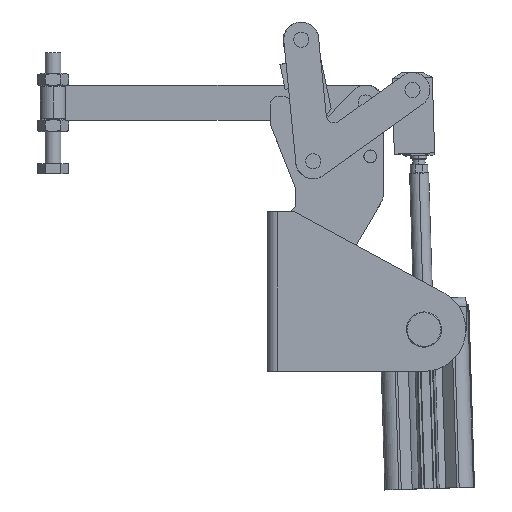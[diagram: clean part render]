
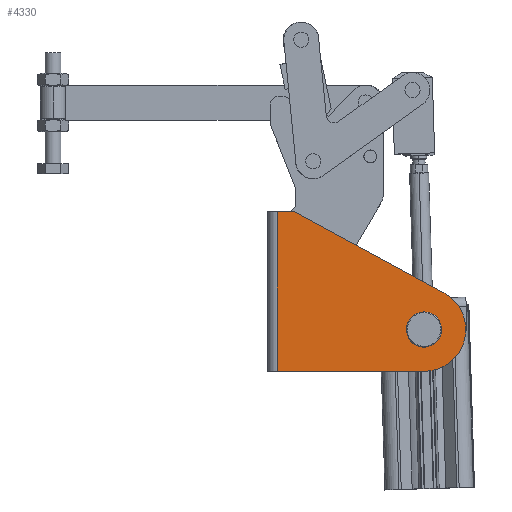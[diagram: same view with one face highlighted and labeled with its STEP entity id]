
A CAD part, top view. The second image highlights one B-rep face of the part: STEP entity #4330.
In plain terms, the highlighted planar face has unit normal (0, 0, 1) as drawn and (1, 0, 0) by its records, which use the part's own axes.
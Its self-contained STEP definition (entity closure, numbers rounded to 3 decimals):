
#91 = DIRECTION ( 'NONE',  ( -1., 0., 0. ) ) ;
#343 = VECTOR ( 'NONE', #8391, 1000. ) ;
#434 = ORIENTED_EDGE ( 'NONE', *, *, #8528, .T. ) ;
#707 = ORIENTED_EDGE ( 'NONE', *, *, #12162, .F. ) ;
#939 = AXIS2_PLACEMENT_3D ( 'NONE', #15763, #5947, #17406 ) ;
#1169 = ORIENTED_EDGE ( 'NONE', *, *, #17638, .F. ) ;
#1852 = CIRCLE ( 'NONE', #939, 3. ) ;
#3127 = ORIENTED_EDGE ( 'NONE', *, *, #12182, .F. ) ;
#3333 = EDGE_LOOP ( 'NONE', ( #17688, #3127, #1169, #707, #17320, #9495 ) ) ;
#3831 = VERTEX_POINT ( 'NONE', #19602 ) ;
#4037 = CARTESIAN_POINT ( 'NONE',  ( 44.75, 93.591, -100.6 ) ) ;
#4058 = CARTESIAN_POINT ( 'NONE',  ( 44.75, 12.533, -0.362 ) ) ;
#4243 = CARTESIAN_POINT ( 'NONE',  ( 44.75, 93.591, -64.753 ) ) ;
#4311 = DIRECTION ( 'NONE',  ( 0., 0.879, -0.476 ) ) ;
#4326 = VERTEX_POINT ( 'NONE', #13050 ) ;
#4330 = ADVANCED_FACE ( 'NONE', ( #9609, #8058 ), #14626, .F. ) ;
#4594 = EDGE_LOOP ( 'NONE', ( #434, #5643 ) ) ;
#4750 = LINE ( 'NONE', #19867, #343 ) ;
#5325 = CARTESIAN_POINT ( 'NONE',  ( 44.75, 93.591, -74.253 ) ) ;
#5342 = VERTEX_POINT ( 'NONE', #4037 ) ;
#5643 = ORIENTED_EDGE ( 'NONE', *, *, #14885, .T. ) ;
#5947 = DIRECTION ( 'NONE',  ( -1., 0., 0. ) ) ;
#5955 = DIRECTION ( 'NONE',  ( 0., -1., 0. ) ) ;
#6981 = DIRECTION ( 'NONE',  ( 0., 0., 1. ) ) ;
#7226 = AXIS2_PLACEMENT_3D ( 'NONE', #9964, #91, #11605 ) ;
#7347 = VECTOR ( 'NONE', #4311, 1000. ) ;
#7872 = LINE ( 'NONE', #14138, #7347 ) ;
#8058 = FACE_BOUND ( 'NONE', #4594, .T. ) ;
#8157 = CARTESIAN_POINT ( 'NONE',  ( 44.75, -180.194, -74.253 ) ) ;
#8171 = VERTEX_POINT ( 'NONE', #10774 ) ;
#8203 = VERTEX_POINT ( 'NONE', #4243 ) ;
#8391 = DIRECTION ( 'NONE',  ( 0., 1., 0. ) ) ;
#8528 = EDGE_CURVE ( 'NONE', #8203, #3831, #14817, .T. ) ;
#8622 = DIRECTION ( 'NONE',  ( -1., 0., 0. ) ) ;
#9276 = VERTEX_POINT ( 'NONE', #16660 ) ;
#9495 = ORIENTED_EDGE ( 'NONE', *, *, #14148, .F. ) ;
#9609 = FACE_OUTER_BOUND ( 'NONE', #3333, .T. ) ;
#9805 = DIRECTION ( 'NONE',  ( 0., 0., 1. ) ) ;
#9964 = CARTESIAN_POINT ( 'NONE',  ( 44.75, 93.591, -74.253 ) ) ;
#10578 = DIRECTION ( 'NONE',  ( 0., 0., 1. ) ) ;
#10774 = CARTESIAN_POINT ( 'NONE',  ( 44.75, 1., -100.6 ) ) ;
#11141 = VECTOR ( 'NONE', #10578, 1000. ) ;
#11605 = DIRECTION ( 'NONE',  ( 0., 0., 1. ) ) ;
#11722 = VECTOR ( 'NONE', #5955, 1000. ) ;
#12071 = VERTEX_POINT ( 'NONE', #20454 ) ;
#12162 = EDGE_CURVE ( 'NONE', #18972, #4326, #7872, .T. ) ;
#12182 = EDGE_CURVE ( 'NONE', #5342, #8171, #16079, .T. ) ;
#12218 = CARTESIAN_POINT ( 'NONE',  ( 44.75, 1., -74.253 ) ) ;
#12524 = AXIS2_PLACEMENT_3D ( 'NONE', #18439, #8622, #20108 ) ;
#12682 = AXIS2_PLACEMENT_3D ( 'NONE', #8157, #19637, #9805 ) ;
#13050 = CARTESIAN_POINT ( 'NONE',  ( 44.75, 106.144, -51.087 ) ) ;
#14138 = CARTESIAN_POINT ( 'NONE',  ( 44.75, 12.533, -0.362 ) ) ;
#14148 = EDGE_CURVE ( 'NONE', #9276, #12071, #4750, .T. ) ;
#14626 = PLANE ( 'NONE',  #12682 ) ;
#14817 = CIRCLE ( 'NONE', #7226, 9.5 ) ;
#14885 = EDGE_CURVE ( 'NONE', #3831, #8203, #18574, .T. ) ;
#15076 = EDGE_CURVE ( 'NONE', #8171, #9276, #20382, .T. ) ;
#15763 = CARTESIAN_POINT ( 'NONE',  ( 44.75, 11.104, -3. ) ) ;
#16079 = LINE ( 'NONE', #17414, #11722 ) ;
#16192 = AXIS2_PLACEMENT_3D ( 'NONE', #5325, #16799, #6981 ) ;
#16660 = CARTESIAN_POINT ( 'NONE',  ( 44.75, 1., 0. ) ) ;
#16799 = DIRECTION ( 'NONE',  ( -1., 0., 0. ) ) ;
#17320 = ORIENTED_EDGE ( 'NONE', *, *, #19684, .F. ) ;
#17406 = DIRECTION ( 'NONE',  ( 0., 0., 1. ) ) ;
#17414 = CARTESIAN_POINT ( 'NONE',  ( 44.75, 93.591, -100.6 ) ) ;
#17638 = EDGE_CURVE ( 'NONE', #4326, #5342, #20798, .T. ) ;
#17688 = ORIENTED_EDGE ( 'NONE', *, *, #15076, .F. ) ;
#18439 = CARTESIAN_POINT ( 'NONE',  ( 44.75, 93.591, -74.253 ) ) ;
#18574 = CIRCLE ( 'NONE', #16192, 9.5 ) ;
#18972 = VERTEX_POINT ( 'NONE', #4058 ) ;
#19602 = CARTESIAN_POINT ( 'NONE',  ( 44.75, 93.591, -83.753 ) ) ;
#19637 = DIRECTION ( 'NONE',  ( -1., 0., 0. ) ) ;
#19684 = EDGE_CURVE ( 'NONE', #12071, #18972, #1852, .T. ) ;
#19867 = CARTESIAN_POINT ( 'NONE',  ( 44.75, 11.104, 0. ) ) ;
#20108 = DIRECTION ( 'NONE',  ( 0., 0., 1. ) ) ;
#20382 = LINE ( 'NONE', #12218, #11141 ) ;
#20454 = CARTESIAN_POINT ( 'NONE',  ( 44.75, 11.104, 0. ) ) ;
#20798 = CIRCLE ( 'NONE', #12524, 26.347 ) ;
